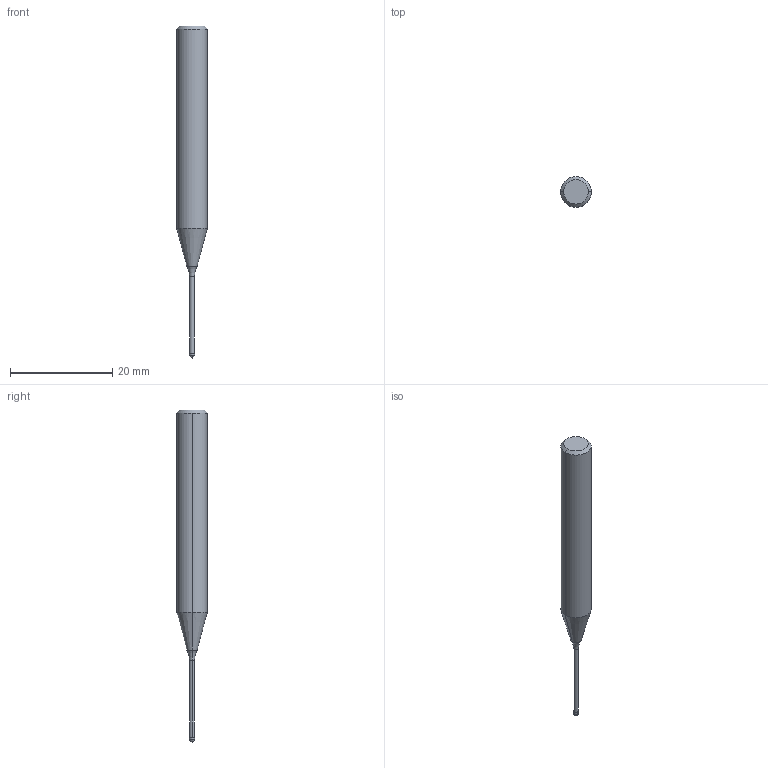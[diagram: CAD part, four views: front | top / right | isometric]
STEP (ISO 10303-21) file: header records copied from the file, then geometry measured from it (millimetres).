
FILE_DESCRIPTION (( 'STEP AP214' ), '1' );
FILE_NAME ('559.101.15_3D-model.step', '2022-02-18T15:27:48', ( '' ), ( '' ), 'SwSTEP 2.0', 'SolidWorks 2020', '' );
FILE_SCHEMA (( 'AUTOMOTIVE_DESIGN' ));
Length unit declared in the file: millimetre
Products named in the file (3): CUT-3D^Baugr178; NOCUT-3D^Baugr178; 559.101.15_3D-model
Assembly tree (2 placements, depth 2):
  559.101.15_3D-model
    CUT-3D^Baugr178
    NOCUT-3D^Baugr178
Bounding box: 6 x 6 x 65 mm (x, y, z)
Volume: 1231.4 mm3; surface area: 922.1 mm2
Topology: 2 solids, 2 shells, 19 faces, 38 edges, 21 vertices
Faces by surface type: cylinder 6, cone 6, plane 3, sphere 2, torus 2
Entity records: 604 total; most frequent: DIRECTION 114, CARTESIAN_POINT 84, ORIENTED_EDGE 72, AXIS2_PLACEMENT_3D 51, EDGE_CURVE 36, CIRCLE 24, VERTEX_POINT 21, EDGE_LOOP 19
